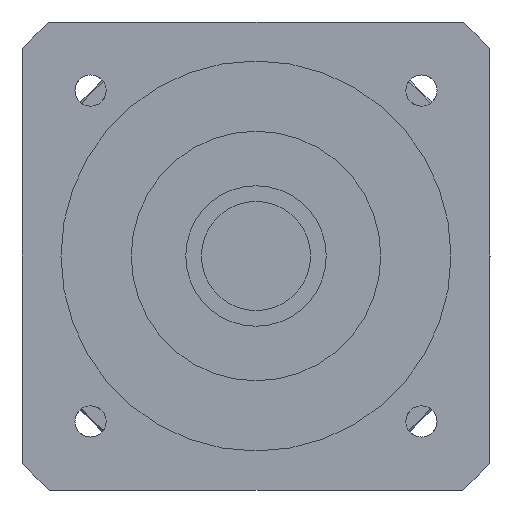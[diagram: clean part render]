
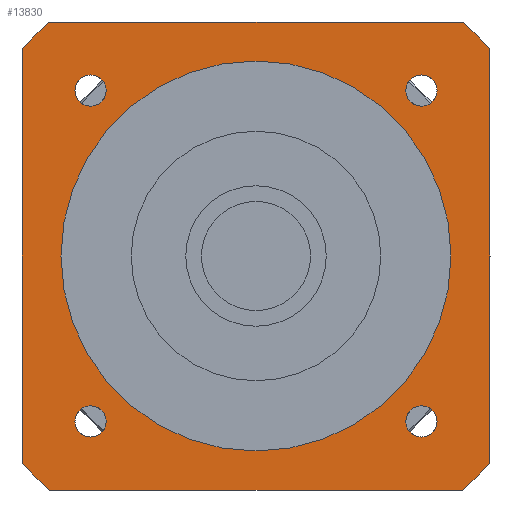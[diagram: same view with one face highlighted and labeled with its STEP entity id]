
A CAD part, left-side view. The second image highlights one B-rep face of the part: STEP entity #13830.
In plain terms, the highlighted planar face has unit normal (-1, 0, 0) as drawn and (0, 0, -1) by its records, which use the part's own axes.
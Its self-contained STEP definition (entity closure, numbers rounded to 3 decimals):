
#8790=CARTESIAN_POINT('',(-19.213,21.213,-35.5));
#8800=VERTEX_POINT('',#8790);
#8830=CARTESIAN_POINT('',(-21.213,21.213,-35.5));
#8840=DIRECTION('',(0.,0.,-1.));
#8850=DIRECTION('',(-1.,0.,0.));
#8860=AXIS2_PLACEMENT_3D('',#8830,#8840,#8850);
#8870=CIRCLE('',#8860,2.);
#8880=CARTESIAN_POINT('',(-23.213,21.213,-35.5));
#8890=VERTEX_POINT('',#8880);
#8900=EDGE_CURVE('',#8890,#8800,#8870,.T.);
#9300=CARTESIAN_POINT('',(21.213,19.213,-35.5));
#9310=VERTEX_POINT('',#9300);
#9340=CARTESIAN_POINT('',(21.213,21.213,-35.5));
#9350=DIRECTION('',(0.,0.,-1.));
#9360=DIRECTION('',(0.,1.,0.));
#9370=AXIS2_PLACEMENT_3D('',#9340,#9350,#9360);
#9380=CIRCLE('',#9370,2.);
#9390=CARTESIAN_POINT('',(21.213,23.213,-35.5));
#9400=VERTEX_POINT('',#9390);
#9410=EDGE_CURVE('',#9400,#9310,#9380,.T.);
#12340=CARTESIAN_POINT('',(25.,0.,-35.5));
#12350=VERTEX_POINT('',#12340);
#12380=CARTESIAN_POINT('',(0.,0.,
-35.5));
#12390=DIRECTION('',(0.,0.,1.));
#12400=DIRECTION('',(0.,1.,0.));
#12410=AXIS2_PLACEMENT_3D('',#12380,#12390,#12400);
#12420=CIRCLE('',#12410,25.);
#12430=CARTESIAN_POINT('',(0.,25.,-35.5));
#12440=VERTEX_POINT('',#12430);
#12450=EDGE_CURVE('',#12350,#12440,#12420,.T.);
#12470=CARTESIAN_POINT('',(-25.,0.,-35.5));
#12480=VERTEX_POINT('',#12470);
#12490=EDGE_CURVE('',#12440,#12480,#12420,.T.);
#12620=CARTESIAN_POINT('',(30.,30.,-35.5));
#12630=DIRECTION('',(0.,0.,-1.));
#12640=DIRECTION('',(1.,0.,0.));
#12650=AXIS2_PLACEMENT_3D('',#12620,#12630,#12640);
#12660=PLANE('',#12650);
#12670=CARTESIAN_POINT('',(-21.213,-21.213,-35.5));
#12680=DIRECTION('',(0.,0.,-1.));
#12690=DIRECTION('',(0.,-1.,0.));
#12700=AXIS2_PLACEMENT_3D('',#12670,#12680,#12690);
#12710=CIRCLE('',#12700,2.);
#12720=CARTESIAN_POINT('',(-21.213,-23.213,-35.5));
#12730=VERTEX_POINT('',#12720);
#12740=CARTESIAN_POINT('',(-21.213,-19.213,-35.5));
#12750=VERTEX_POINT('',#12740);
#12760=EDGE_CURVE('',#12730,#12750,#12710,.T.);
#12770=ORIENTED_EDGE('',*,*,#12760,.F.);
#12780=EDGE_CURVE('',#12750,#12730,#12710,.T.);
#12790=ORIENTED_EDGE('',*,*,#12780,.F.);
#12800=EDGE_LOOP('',(#12790,#12770));
#12810=FACE_BOUND('',#12800,.T.);
#12820=ORIENTED_EDGE('',*,*,#8900,.F.);
#12830=EDGE_CURVE('',#8800,#8890,#8870,.T.);
#12840=ORIENTED_EDGE('',*,*,#12830,.F.);
#12850=EDGE_LOOP('',(#12840,#12820));
#12860=FACE_BOUND('',#12850,.T.);
#12870=ORIENTED_EDGE('',*,*,#9410,.F.);
#12880=EDGE_CURVE('',#9310,#9400,#9380,.T.);
#12890=ORIENTED_EDGE('',*,*,#12880,.F.);
#12900=EDGE_LOOP('',(#12890,#12870));
#12910=FACE_BOUND('',#12900,.T.);
#12920=EDGE_CURVE('',#12480,#12350,#12420,.T.);
#12930=ORIENTED_EDGE('',*,*,#12920,.T.);
#12940=ORIENTED_EDGE('',*,*,#12490,.T.);
#12950=ORIENTED_EDGE('',*,*,#12450,.T.);
#12960=EDGE_LOOP('',(#12950,#12940,#12930));
#12970=FACE_BOUND('',#12960,.T.);
#12980=CARTESIAN_POINT('',(-30.,30.,-35.5));
#12990=DIRECTION('',(1.,0.,0.));
#13000=VECTOR('',#12990,1000.);
#13010=LINE('',#12980,#13000);
#13020=CARTESIAN_POINT('',(-26.458,30.,-35.5));
#13030=VERTEX_POINT('',#13020);
#13040=CARTESIAN_POINT('',(26.458,30.,-35.5));
#13050=VERTEX_POINT('',#13040);
#13060=EDGE_CURVE('',#13030,#13050,#13010,.T.);
#13070=ORIENTED_EDGE('',*,*,#13060,.T.);
#13080=CARTESIAN_POINT('',(0.,0.,
-35.5));
#13090=DIRECTION('',(0.,0.,-1.));
#13100=DIRECTION('',(1.,0.,0.));
#13110=AXIS2_PLACEMENT_3D('',#13080,#13090,#13100);
#13120=CIRCLE('',#13110,40.);
#13130=CARTESIAN_POINT('',(-30.,26.458,-35.5));
#13140=VERTEX_POINT('',#13130);
#13150=EDGE_CURVE('',#13140,#13030,#13120,.T.);
#13160=ORIENTED_EDGE('',*,*,#13150,.T.);
#13170=CARTESIAN_POINT('',(-30.,-30.,-35.5));
#13180=DIRECTION('',(0.,1.,0.));
#13190=VECTOR('',#13180,1000.);
#13200=LINE('',#13170,#13190);
#13210=CARTESIAN_POINT('',(-30.,-26.458,-35.5));
#13220=VERTEX_POINT('',#13210);
#13230=EDGE_CURVE('',#13220,#13140,#13200,.T.);
#13240=ORIENTED_EDGE('',*,*,#13230,.T.);
#13250=CARTESIAN_POINT('',(0.,0.,
-35.5));
#13260=DIRECTION('',(0.,0.,-1.));
#13270=DIRECTION('',(1.,0.,0.));
#13280=AXIS2_PLACEMENT_3D('',#13250,#13260,#13270);
#13290=CIRCLE('',#13280,40.);
#13300=CARTESIAN_POINT('',(-26.458,-30.,-35.5));
#13310=VERTEX_POINT('',#13300);
#13320=EDGE_CURVE('',#13310,#13220,#13290,.T.);
#13330=ORIENTED_EDGE('',*,*,#13320,.T.);
#13340=CARTESIAN_POINT('',(30.,-30.,-35.5));
#13350=DIRECTION('',(-1.,0.,0.));
#13360=VECTOR('',#13350,1000.);
#13370=LINE('',#13340,#13360);
#13380=CARTESIAN_POINT('',(26.458,-30.,-35.5));
#13390=VERTEX_POINT('',#13380);
#13400=EDGE_CURVE('',#13390,#13310,#13370,.T.);
#13410=ORIENTED_EDGE('',*,*,#13400,.T.);
#13420=CARTESIAN_POINT('',(0.,0.,
-35.5));
#13430=DIRECTION('',(0.,0.,-1.));
#13440=DIRECTION('',(1.,0.,0.));
#13450=AXIS2_PLACEMENT_3D('',#13420,#13430,#13440);
#13460=CIRCLE('',#13450,40.);
#13470=CARTESIAN_POINT('',(30.,-26.458,-35.5));
#13480=VERTEX_POINT('',#13470);
#13490=EDGE_CURVE('',#13480,#13390,#13460,.T.);
#13500=ORIENTED_EDGE('',*,*,#13490,.T.);
#13510=CARTESIAN_POINT('',(30.,30.,-35.5));
#13520=DIRECTION('',(0.,-1.,0.));
#13530=VECTOR('',#13520,1000.);
#13540=LINE('',#13510,#13530);
#13550=CARTESIAN_POINT('',(30.,26.458,-35.5));
#13560=VERTEX_POINT('',#13550);
#13570=EDGE_CURVE('',#13560,#13480,#13540,.T.);
#13580=ORIENTED_EDGE('',*,*,#13570,.T.);
#13590=CARTESIAN_POINT('',(0.,0.,
-35.5));
#13600=DIRECTION('',(0.,0.,-1.));
#13610=DIRECTION('',(1.,0.,0.));
#13620=AXIS2_PLACEMENT_3D('',#13590,#13600,#13610);
#13630=CIRCLE('',#13620,40.);
#13640=EDGE_CURVE('',#13050,#13560,#13630,.T.);
#13650=ORIENTED_EDGE('',*,*,#13640,.T.);
#13660=EDGE_LOOP('',(#13650,#13580,#13500,#13410,#13330,#13240,#13160,
#13070));
#13670=FACE_OUTER_BOUND('',#13660,.T.);
#13680=CARTESIAN_POINT('',(21.213,-21.213,-35.5));
#13690=DIRECTION('',(0.,0.,-1.));
#13700=DIRECTION('',(1.,0.,0.));
#13710=AXIS2_PLACEMENT_3D('',#13680,#13690,#13700);
#13720=CIRCLE('',#13710,2.);
#13730=CARTESIAN_POINT('',(23.213,-21.213,-35.5));
#13740=VERTEX_POINT('',#13730);
#13750=CARTESIAN_POINT('',(19.213,-21.213,-35.5));
#13760=VERTEX_POINT('',#13750);
#13770=EDGE_CURVE('',#13740,#13760,#13720,.T.);
#13780=ORIENTED_EDGE('',*,*,#13770,.F.);
#13790=EDGE_CURVE('',#13760,#13740,#13720,.T.);
#13800=ORIENTED_EDGE('',*,*,#13790,.F.);
#13810=EDGE_LOOP('',(#13800,#13780));
#13820=FACE_BOUND('',#13810,.T.);
#13830=ADVANCED_FACE('',(#12810,#12860,#12910,#12970,#13670,#13820),
#12660,.T.);
